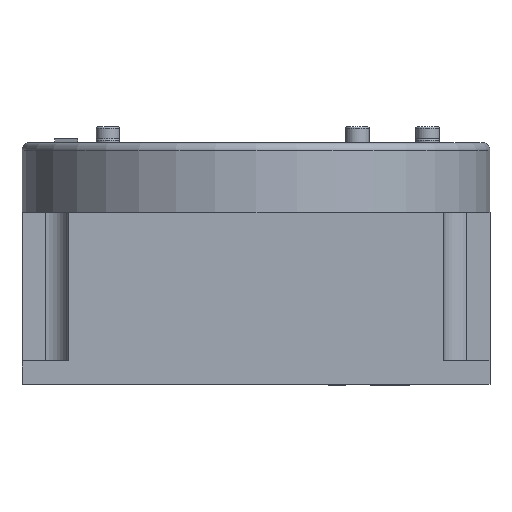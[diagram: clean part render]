
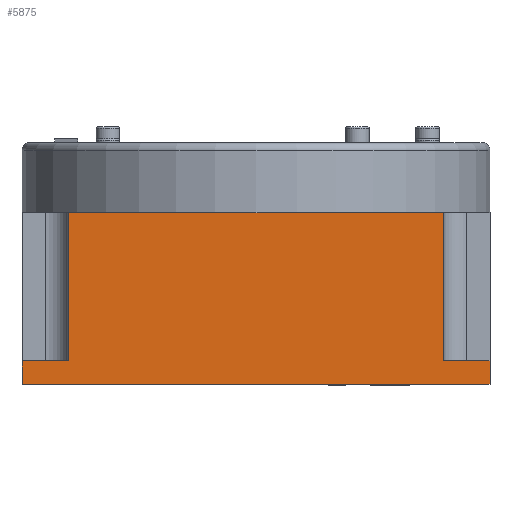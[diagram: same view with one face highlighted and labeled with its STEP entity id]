
A CAD part, left-side view. The second image highlights one B-rep face of the part: STEP entity #5875.
In plain terms, the highlighted planar face has unit normal (-1, 0, 0).
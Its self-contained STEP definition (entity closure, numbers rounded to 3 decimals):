
#4891 = VERTEX_POINT('',#4892);
#4892 = CARTESIAN_POINT('',(0.,0.,0.));
#4898 = EDGE_CURVE('',#4899,#4891,#4901,.T.);
#4899 = VERTEX_POINT('',#4900);
#4900 = CARTESIAN_POINT('',(0.,0.,-60.));
#4901 = LINE('',#4902,#4903);
#4902 = CARTESIAN_POINT('',(0.,0.,0.));
#4903 = VECTOR('',#4904,1.);
#4904 = DIRECTION('',(-0.,-0.,1.));
#5849 = VERTEX_POINT('',#5850);
#5850 = CARTESIAN_POINT('',(0.,22.,-54.));
#5856 = EDGE_CURVE('',#5849,#5857,#5859,.T.);
#5857 = VERTEX_POINT('',#5858);
#5858 = CARTESIAN_POINT('',(0.,22.,-30.));
#5859 = LINE('',#5860,#5861);
#5860 = CARTESIAN_POINT('',(0.,22.,0.));
#5861 = VECTOR('',#5862,1.);
#5862 = DIRECTION('',(-0.,-0.,1.));
#5875 = ADVANCED_FACE('',(#5876),#5932,.F.);
#5876 = FACE_BOUND('',#5877,.T.);
#5877 = EDGE_LOOP('',(#5878,#5888,#5896,#5902,#5903,#5911,#5919,#5925,
    #5926));
#5878 = ORIENTED_EDGE('',*,*,#5879,.F.);
#5879 = EDGE_CURVE('',#5880,#5882,#5884,.T.);
#5880 = VERTEX_POINT('',#5881);
#5881 = CARTESIAN_POINT('',(0.,3.,-6.));
#5882 = VERTEX_POINT('',#5883);
#5883 = CARTESIAN_POINT('',(0.,3.,0.));
#5884 = LINE('',#5885,#5886);
#5885 = CARTESIAN_POINT('',(0.,3.,0.));
#5886 = VECTOR('',#5887,1.);
#5887 = DIRECTION('',(-0.,-0.,1.));
#5888 = ORIENTED_EDGE('',*,*,#5889,.T.);
#5889 = EDGE_CURVE('',#5880,#5890,#5892,.T.);
#5890 = VERTEX_POINT('',#5891);
#5891 = CARTESIAN_POINT('',(0.,22.,-6.));
#5892 = LINE('',#5893,#5894);
#5893 = CARTESIAN_POINT('',(0.,3.,-6.));
#5894 = VECTOR('',#5895,1.);
#5895 = DIRECTION('',(-0.,1.,-0.));
#5896 = ORIENTED_EDGE('',*,*,#5897,.F.);
#5897 = EDGE_CURVE('',#5857,#5890,#5898,.T.);
#5898 = LINE('',#5899,#5900);
#5899 = CARTESIAN_POINT('',(0.,22.,0.));
#5900 = VECTOR('',#5901,1.);
#5901 = DIRECTION('',(-0.,-0.,1.));
#5902 = ORIENTED_EDGE('',*,*,#5856,.F.);
#5903 = ORIENTED_EDGE('',*,*,#5904,.F.);
#5904 = EDGE_CURVE('',#5905,#5849,#5907,.T.);
#5905 = VERTEX_POINT('',#5906);
#5906 = CARTESIAN_POINT('',(0.,3.,-54.));
#5907 = LINE('',#5908,#5909);
#5908 = CARTESIAN_POINT('',(0.,3.,-54.));
#5909 = VECTOR('',#5910,1.);
#5910 = DIRECTION('',(-0.,1.,-0.));
#5911 = ORIENTED_EDGE('',*,*,#5912,.F.);
#5912 = EDGE_CURVE('',#5913,#5905,#5915,.T.);
#5913 = VERTEX_POINT('',#5914);
#5914 = CARTESIAN_POINT('',(0.,3.,-60.));
#5915 = LINE('',#5916,#5917);
#5916 = CARTESIAN_POINT('',(0.,3.,-60.));
#5917 = VECTOR('',#5918,1.);
#5918 = DIRECTION('',(0.,0.,1.));
#5919 = ORIENTED_EDGE('',*,*,#5920,.T.);
#5920 = EDGE_CURVE('',#5913,#4899,#5921,.T.);
#5921 = LINE('',#5922,#5923);
#5922 = CARTESIAN_POINT('',(0.,22.,-60.));
#5923 = VECTOR('',#5924,1.);
#5924 = DIRECTION('',(-0.,-1.,-0.));
#5925 = ORIENTED_EDGE('',*,*,#4898,.T.);
#5926 = ORIENTED_EDGE('',*,*,#5927,.F.);
#5927 = EDGE_CURVE('',#5882,#4891,#5928,.T.);
#5928 = LINE('',#5929,#5930);
#5929 = CARTESIAN_POINT('',(0.,22.,0.));
#5930 = VECTOR('',#5931,1.);
#5931 = DIRECTION('',(-0.,-1.,-0.));
#5932 = PLANE('',#5933);
#5933 = AXIS2_PLACEMENT_3D('',#5934,#5935,#5936);
#5934 = CARTESIAN_POINT('',(0.,22.,0.));
#5935 = DIRECTION('',(1.,-0.,0.));
#5936 = DIRECTION('',(0.,0.,-1.));
